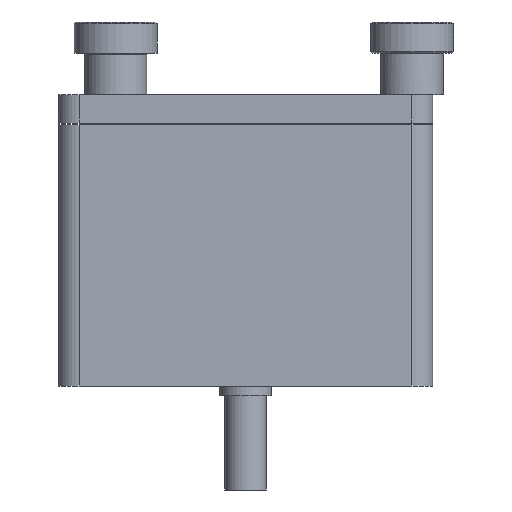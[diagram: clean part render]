
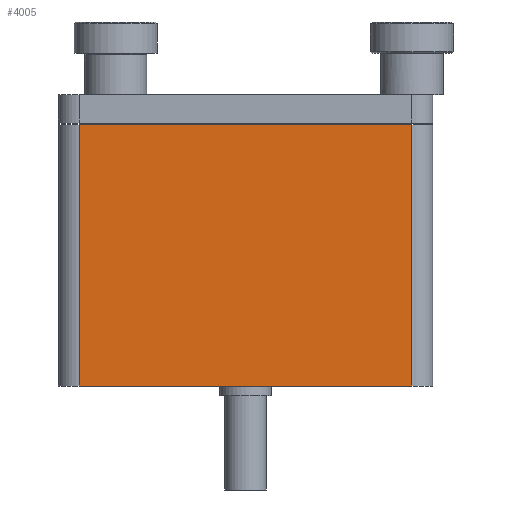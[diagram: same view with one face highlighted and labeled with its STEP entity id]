
A CAD part, front view. The second image highlights one B-rep face of the part: STEP entity #4005.
In plain terms, the highlighted planar face has unit normal (0, -1, 0).
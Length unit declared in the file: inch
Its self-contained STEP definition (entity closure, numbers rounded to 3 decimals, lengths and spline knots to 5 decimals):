
#80 = ORIENTED_EDGE ( 'NONE', *, *, #296, .F. ) ;
#81 = ORIENTED_EDGE ( 'NONE', *, *, #5151, .T. ) ;
#82 = ORIENTED_EDGE ( 'NONE', *, *, #297, .T. ) ;
#83 = ORIENTED_EDGE ( 'NONE', *, *, #5092, .T. ) ;
#296 = EDGE_CURVE ( 'NONE', #4911, #4931, #485, .T. ) ;
#297 = EDGE_CURVE ( 'NONE', #4910, #4924, #488, .T. ) ;
#485 = LINE ( 'NONE', #3771, #491 ) ;
#488 = LINE ( 'NONE', #3769, #493 ) ;
#491 = VECTOR ( 'NONE', #3776, 39.37008 ) ;
#493 = VECTOR ( 'NONE', #3778, 39.37008 ) ;
#1073 = AXIS2_PLACEMENT_3D ( 'NONE', #1748, #1753, #1754 ) ;
#1474 = FACE_OUTER_BOUND ( 'NONE', #4595, .T. ) ;
#1748 = CARTESIAN_POINT ( 'NONE',  ( 1., -1.125, 1.75 ) ) ;
#1750 = PLANE ( 'NONE',  #1073 ) ;
#1753 = DIRECTION ( 'NONE',  ( 0., 1., 0. ) ) ;
#1754 = DIRECTION ( 'NONE',  ( -1., 0., 0. ) ) ;
#3072 = CARTESIAN_POINT ( 'NONE',  ( -1., -1.125, 1.57036 ) ) ;
#3073 = CARTESIAN_POINT ( 'NONE',  ( 1., -1.125, 1.57036 ) ) ;
#3086 = CARTESIAN_POINT ( 'NONE',  ( -1., -1.125, 0. ) ) ;
#3097 = CARTESIAN_POINT ( 'NONE',  ( 1., -1.125, 0. ) ) ;
#3288 = CARTESIAN_POINT ( 'NONE',  ( 1., -1.125, 0. ) ) ;
#3289 = DIRECTION ( 'NONE',  ( 1., 0., 0. ) ) ;
#3414 = CARTESIAN_POINT ( 'NONE',  ( 1., -1.125, 1.57036 ) ) ;
#3415 = DIRECTION ( 'NONE',  ( -1., 0., 0. ) ) ;
#3509 = LINE ( 'NONE', #3288, #3511 ) ;
#3511 = VECTOR ( 'NONE', #3289, 39.37008 ) ;
#3618 = LINE ( 'NONE', #3414, #3620 ) ;
#3620 = VECTOR ( 'NONE', #3415, 39.37008 ) ;
#3769 = CARTESIAN_POINT ( 'NONE',  ( -1., -1.125, 1.75 ) ) ;
#3771 = CARTESIAN_POINT ( 'NONE',  ( 1., -1.125, 1.75 ) ) ;
#3776 = DIRECTION ( 'NONE',  ( 0., 0., -1. ) ) ;
#3778 = DIRECTION ( 'NONE',  ( 0., 0., -1. ) ) ;
#4005 = ADVANCED_FACE ( 'NONE', ( #1474 ), #1750, .F. ) ;
#4595 = EDGE_LOOP ( 'NONE', ( #80, #81, #82, #83 ) ) ;
#4910 = VERTEX_POINT ( 'NONE', #3072 ) ;
#4911 = VERTEX_POINT ( 'NONE', #3073 ) ;
#4924 = VERTEX_POINT ( 'NONE', #3086 ) ;
#4931 = VERTEX_POINT ( 'NONE', #3097 ) ;
#5092 = EDGE_CURVE ( 'NONE', #4924, #4931, #3509, .T. ) ;
#5151 = EDGE_CURVE ( 'NONE', #4911, #4910, #3618, .T. ) ;
